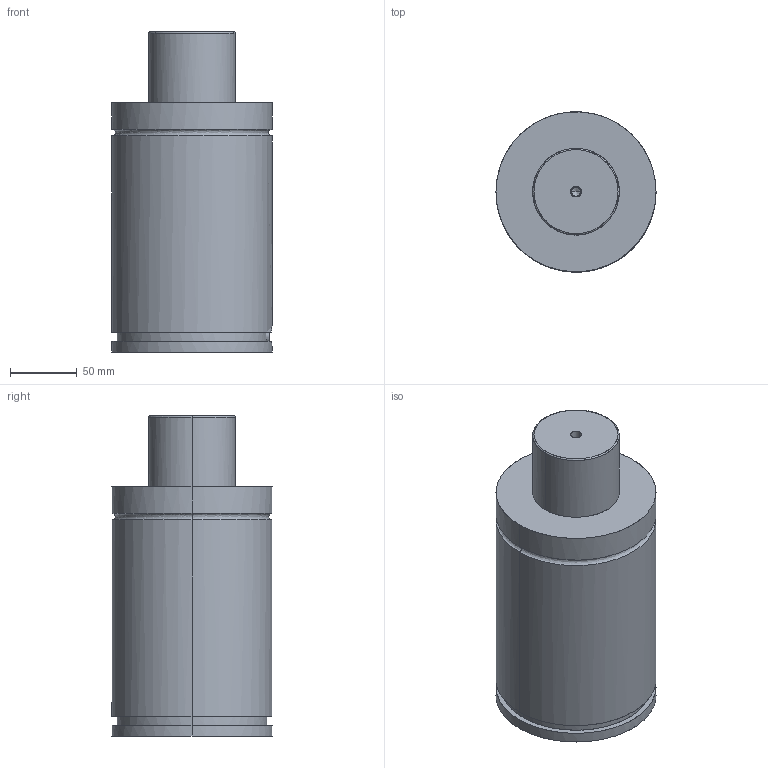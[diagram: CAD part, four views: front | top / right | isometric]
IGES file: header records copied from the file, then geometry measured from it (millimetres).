
Global section: file name: E:\UnigraphicsGraphicData\MISUMI_PRESS-PARTS\IGES\3d_gse120-50_03867_r00.igs; native system: NX V5.0; preprocessor: UGS NX IGES V5.0; author: MISUMI; date: 20110105.160752; units: millimetre
Bounding box: 120 x 120 x 240 mm (x, y, z)
Surface area: 110883.1 mm2 (no closed solid volume)
Topology: 0 solids, 0 shells, 75 faces, 604 edges, 602 vertices
Faces by surface type: bspline 75
